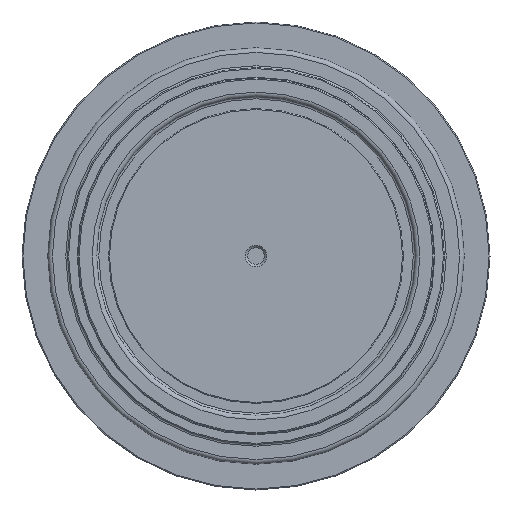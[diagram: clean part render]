
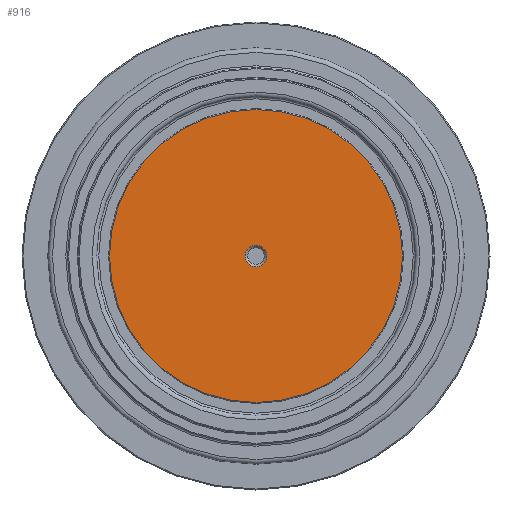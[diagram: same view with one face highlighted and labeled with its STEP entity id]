
A CAD part, front view. The second image highlights one B-rep face of the part: STEP entity #916.
In plain terms, the highlighted planar face has unit normal (0, -1, 0).
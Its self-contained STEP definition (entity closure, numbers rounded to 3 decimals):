
#67=FACE_BOUND('',#152,.T.);
#80=PLANE('',#1003);
#99=FACE_OUTER_BOUND('',#151,.T.);
#151=EDGE_LOOP('',(#627,#628));
#152=EDGE_LOOP('',(#629));
#218=CIRCLE('',#997,2.275);
#223=CIRCLE('',#1004,31.3);
#224=CIRCLE('',#1005,31.3);
#349=VERTEX_POINT('',#1572);
#354=VERTEX_POINT('',#1586);
#355=VERTEX_POINT('',#1587);
#462=EDGE_CURVE('',#349,#349,#218,.T.);
#469=EDGE_CURVE('',#354,#355,#223,.T.);
#470=EDGE_CURVE('',#355,#354,#224,.T.);
#627=ORIENTED_EDGE('',*,*,#469,.T.);
#628=ORIENTED_EDGE('',*,*,#470,.T.);
#629=ORIENTED_EDGE('',*,*,#462,.F.);
#916=ADVANCED_FACE('',(#99,#67),#80,.T.);
#997=AXIS2_PLACEMENT_3D('',#1573,#1199,#1200);
#1003=AXIS2_PLACEMENT_3D('',#1585,#1213,#1214);
#1004=AXIS2_PLACEMENT_3D('',#1588,#1215,#1216);
#1005=AXIS2_PLACEMENT_3D('',#1589,#1217,#1218);
#1199=DIRECTION('center_axis',(0.,-1.,0.));
#1200=DIRECTION('ref_axis',(-1.,0.,0.));
#1213=DIRECTION('center_axis',(0.,-1.,0.));
#1214=DIRECTION('ref_axis',(0.,0.,-1.));
#1215=DIRECTION('center_axis',(0.,-1.,0.));
#1216=DIRECTION('ref_axis',(1.,0.,0.));
#1217=DIRECTION('center_axis',(0.,-1.,0.));
#1218=DIRECTION('ref_axis',(1.,0.,0.));
#1572=CARTESIAN_POINT('',(2.275,0.,0.));
#1573=CARTESIAN_POINT('Origin',(0.,0.,0.));
#1585=CARTESIAN_POINT('Origin',(0.,0.,0.));
#1586=CARTESIAN_POINT('',(31.3,0.,0.));
#1587=CARTESIAN_POINT('',(0.,0.,31.3));
#1588=CARTESIAN_POINT('Origin',(0.,0.,
0.));
#1589=CARTESIAN_POINT('Origin',(0.,0.,
0.));
